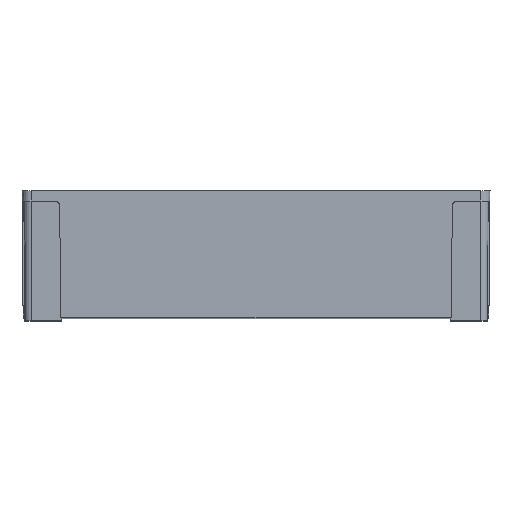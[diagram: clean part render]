
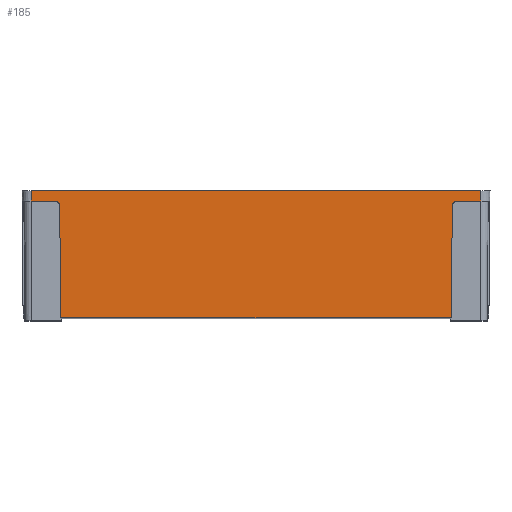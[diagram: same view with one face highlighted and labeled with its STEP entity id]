
A CAD part, top view. The second image highlights one B-rep face of the part: STEP entity #185.
In plain terms, the highlighted planar face has unit normal (0, -0.009, 1).
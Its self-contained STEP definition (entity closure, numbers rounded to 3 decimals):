
#61 = VERTEX_POINT ( 'NONE', #3250 ) ;
#72 = VERTEX_POINT ( 'NONE', #3281 ) ;
#74 = EDGE_CURVE ( 'NONE', #72, #75, #3280, .T. ) ;
#75 = VERTEX_POINT ( 'NONE', #3276 ) ;
#85 = EDGE_CURVE ( 'NONE', #86, #61, #3317, .T. ) ;
#86 = VERTEX_POINT ( 'NONE', #3313 ) ;
#158 = VERTEX_POINT ( 'NONE', #3427 ) ;
#185 = ADVANCED_FACE ( 'NONE', ( #3440 ), #3439, .T. ) ;
#429 = EDGE_CURVE ( 'NONE', #3533, #3523, #4201, .T. ) ;
#430 = ORIENTED_EDGE ( 'NONE', *, *, #429, .T. ) ;
#431 = EDGE_CURVE ( 'NONE', #3533, #61, #4241, .T. ) ;
#3250 = CARTESIAN_POINT ( 'NONE',  ( 75.157, -49., 89.622 ) ) ;
#3276 = CARTESIAN_POINT ( 'NONE',  ( -86.55, 0., 90.05 ) ) ;
#3277 = DIRECTION ( 'NONE',  ( 0., 1., 0.009 ) ) ;
#3278 = VECTOR ( 'NONE', #3277, 1000. ) ;
#3279 = CARTESIAN_POINT ( 'NONE',  ( -86.55, 0., 90.05 ) ) ;
#3280 = LINE ( 'NONE', #3279, #3278 ) ;
#3281 = CARTESIAN_POINT ( 'NONE',  ( -86.55, -4., 90.015 ) ) ;
#3313 = CARTESIAN_POINT ( 'NONE',  ( -75.157, -49., 89.622 ) ) ;
#3314 = DIRECTION ( 'NONE',  ( 1., 0., 0. ) ) ;
#3315 = VECTOR ( 'NONE', #3314, 1000. ) ;
#3316 = CARTESIAN_POINT ( 'NONE',  ( -86.55, -49., 89.622 ) ) ;
#3317 = LINE ( 'NONE', #3316, #3315 ) ;
#3427 = CARTESIAN_POINT ( 'NONE',  ( 86.55, -4., 90.015 ) ) ;
#3437 = CARTESIAN_POINT ( 'NONE',  ( -86.55, 0., 90.05 ) ) ;
#3438 = AXIS2_PLACEMENT_3D ( 'NONE', #3437, #3494, #3493 ) ;
#3439 = PLANE ( 'NONE',  #3438 ) ;
#3440 = FACE_OUTER_BOUND ( 'NONE', #3544, .T. ) ;
#3493 = DIRECTION ( 'NONE',  ( 0., -1., -0.009 ) ) ;
#3494 = DIRECTION ( 'NONE',  ( 0., -0.009, 1. ) ) ;
#3496 = ORIENTED_EDGE ( 'NONE', *, *, #85, .T. ) ;
#3523 = VERTEX_POINT ( 'NONE', #8893 ) ;
#3524 = ORIENTED_EDGE ( 'NONE', *, *, #3525, .F. ) ;
#3525 = EDGE_CURVE ( 'NONE', #158, #3523, #8892, .T. ) ;
#3526 = ORIENTED_EDGE ( 'NONE', *, *, #3531, .T. ) ;
#3527 = ORIENTED_EDGE ( 'NONE', *, *, #3528, .F. ) ;
#3528 = EDGE_CURVE ( 'NONE', #75, #3532, #8888, .T. ) ;
#3529 = ORIENTED_EDGE ( 'NONE', *, *, #74, .F. ) ;
#3530 = ORIENTED_EDGE ( 'NONE', *, *, #3536, .T. ) ;
#3531 = EDGE_CURVE ( 'NONE', #158, #3532, #8884, .T. ) ;
#3532 = VERTEX_POINT ( 'NONE', #8880 ) ;
#3533 = VERTEX_POINT ( 'NONE', #8879 ) ;
#3535 = ORIENTED_EDGE ( 'NONE', *, *, #431, .F. ) ;
#3536 = EDGE_CURVE ( 'NONE', #72, #3537, #8878, .T. ) ;
#3537 = VERTEX_POINT ( 'NONE', #8874 ) ;
#3538 = ORIENTED_EDGE ( 'NONE', *, *, #3539, .T. ) ;
#3539 = EDGE_CURVE ( 'NONE', #3537, #3540, #8871, .T. ) ;
#3540 = VERTEX_POINT ( 'NONE', #8873 ) ;
#3541 = ORIENTED_EDGE ( 'NONE', *, *, #3542, .F. ) ;
#3542 = EDGE_CURVE ( 'NONE', #86, #3540, #8872, .T. ) ;
#3544 = EDGE_LOOP ( 'NONE', ( #3535, #430, #3524, #3526, #3527, #3529, #3530, #3538, #3541, #3496 ) ) ;
#4201 =( BOUNDED_CURVE ( )  B_SPLINE_CURVE ( 3, ( #4245, #4244, #4243, #4242 ),
 .UNSPECIFIED., .F., .T. ) 
 B_SPLINE_CURVE_WITH_KNOTS ( ( 4, 4 ),
 ( 1.58, 3.142 ),
 .UNSPECIFIED. ) 
 CURVE ( )  GEOMETRIC_REPRESENTATION_ITEM ( )  RATIONAL_B_SPLINE_CURVE ( ( 1., 0.807, 0.807, 1. ) ) 
 REPRESENTATION_ITEM ( '' )  );
#4238 = DIRECTION ( 'NONE',  ( -0.009, -1., -0.009 ) ) ;
#4239 = VECTOR ( 'NONE', #4238, 1000. ) ;
#4240 = CARTESIAN_POINT ( 'NONE',  ( 75.573, -1.415, 90.038 ) ) ;
#4241 = LINE ( 'NONE', #4240, #4239 ) ;
#4242 = CARTESIAN_POINT ( 'NONE',  ( 77.533, -4., 90.015 ) ) ;
#4243 = CARTESIAN_POINT ( 'NONE',  ( 76.369, -4., 90.015 ) ) ;
#4244 = CARTESIAN_POINT ( 'NONE',  ( 75.543, -4.819, 90.008 ) ) ;
#4245 = CARTESIAN_POINT ( 'NONE',  ( 75.533, -5.983, 89.998 ) ) ;
#8871 =( BOUNDED_CURVE ( )  B_SPLINE_CURVE ( 3, ( #8925, #8924, #8923, #8922 ),
 .UNSPECIFIED., .F., .T. ) 
 B_SPLINE_CURVE_WITH_KNOTS ( ( 4, 4 ),
 ( 3.142, 4.704 ),
 .UNSPECIFIED. ) 
 CURVE ( )  GEOMETRIC_REPRESENTATION_ITEM ( )  RATIONAL_B_SPLINE_CURVE ( ( 1., 0.807, 0.807, 1. ) ) 
 REPRESENTATION_ITEM ( '' )  );
#8872 = LINE ( 'NONE', #8921, #8920 ) ;
#8873 = CARTESIAN_POINT ( 'NONE',  ( -75.533, -5.983, 89.998 ) ) ;
#8874 = CARTESIAN_POINT ( 'NONE',  ( -77.533, -4., 90.015 ) ) ;
#8875 = DIRECTION ( 'NONE',  ( 1., 0., 0. ) ) ;
#8876 = VECTOR ( 'NONE', #8875, 1000. ) ;
#8877 = CARTESIAN_POINT ( 'NONE',  ( -86.55, -4., 90.015 ) ) ;
#8878 = LINE ( 'NONE', #8877, #8876 ) ;
#8879 = CARTESIAN_POINT ( 'NONE',  ( 75.533, -5.983, 89.998 ) ) ;
#8880 = CARTESIAN_POINT ( 'NONE',  ( 86.55, 0., 90.05 ) ) ;
#8881 = DIRECTION ( 'NONE',  ( 0., 1., 0.009 ) ) ;
#8882 = VECTOR ( 'NONE', #8881, 1000. ) ;
#8883 = CARTESIAN_POINT ( 'NONE',  ( 86.55, 0., 90.05 ) ) ;
#8884 = LINE ( 'NONE', #8883, #8882 ) ;
#8885 = DIRECTION ( 'NONE',  ( 1., 0., 0. ) ) ;
#8886 = VECTOR ( 'NONE', #8885, 1000. ) ;
#8887 = CARTESIAN_POINT ( 'NONE',  ( -86.55, 0., 90.05 ) ) ;
#8888 = LINE ( 'NONE', #8887, #8886 ) ;
#8889 = DIRECTION ( 'NONE',  ( -1., 0., 0. ) ) ;
#8890 = VECTOR ( 'NONE', #8889, 1000. ) ;
#8891 = CARTESIAN_POINT ( 'NONE',  ( -86.55, -4., 90.015 ) ) ;
#8892 = LINE ( 'NONE', #8891, #8890 ) ;
#8893 = CARTESIAN_POINT ( 'NONE',  ( 77.533, -4., 90.015 ) ) ;
#8919 = DIRECTION ( 'NONE',  ( -0.009, 1., 0.009 ) ) ;
#8920 = VECTOR ( 'NONE', #8919, 1000. ) ;
#8921 = CARTESIAN_POINT ( 'NONE',  ( -75.586, 0.096, 90.051 ) ) ;
#8922 = CARTESIAN_POINT ( 'NONE',  ( -75.533, -5.983, 89.998 ) ) ;
#8923 = CARTESIAN_POINT ( 'NONE',  ( -75.543, -4.819, 90.008 ) ) ;
#8924 = CARTESIAN_POINT ( 'NONE',  ( -76.369, -4., 90.015 ) ) ;
#8925 = CARTESIAN_POINT ( 'NONE',  ( -77.533, -4., 90.015 ) ) ;
